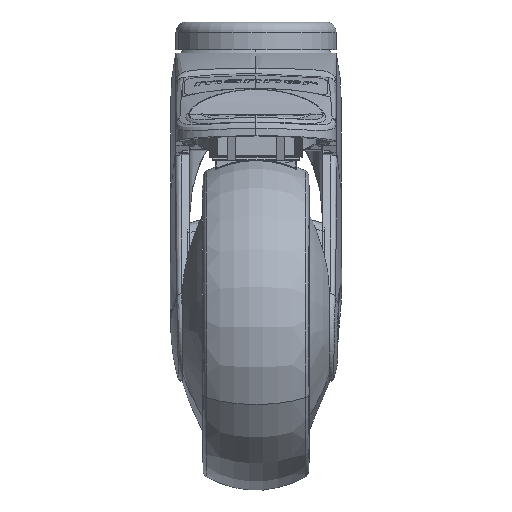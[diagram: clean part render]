
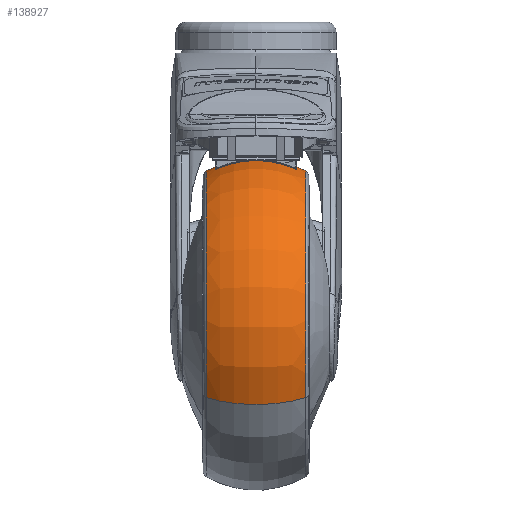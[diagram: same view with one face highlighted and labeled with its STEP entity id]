
A CAD part, left-side view. The second image highlights one B-rep face of the part: STEP entity #138927.
In plain terms, the highlighted toroidal (fillet/blend) face has major radius 22 mm and minor radius 28 mm.
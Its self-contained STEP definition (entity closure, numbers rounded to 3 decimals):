
#84991 = CARTESIAN_POINT ( 'NONE',  ( -85.096, -14.808, -3.061 ) ) ;
#84992 = CARTESIAN_POINT ( 'NONE',  ( -4.904, -14.808, 41.061 ) ) ;
#85003 = CARTESIAN_POINT ( 'NONE',  ( -4.904, 14.808, 41.061 ) ) ;
#85004 = CARTESIAN_POINT ( 'NONE',  ( -85.096, 14.808, -3.061 ) ) ;
#85006 = DIRECTION ( 'NONE',  ( -0.876, 0., -0.482 ) ) ;
#85008 = DIRECTION ( 'NONE',  ( 0., 1., 0. ) ) ;
#85010 = CARTESIAN_POINT ( 'NONE',  ( -45., 14.808, 19. ) ) ;
#85012 = AXIS2_PLACEMENT_3D ( 'NONE', #85010, #85008, #85006 ) ;
#85013 = CIRCLE ( 'NONE', #85012, 45.764 ) ;
#85101 = CARTESIAN_POINT ( 'NONE',  ( -64.275, 0., 8.395 ) ) ;
#85102 = AXIS2_PLACEMENT_3D ( 'NONE', #85101, #85229, #85228 ) ;
#85113 = CIRCLE ( 'NONE', #85102, 28. ) ;
#85228 = DIRECTION ( 'NONE',  ( -0.876, 0., -0.482 ) ) ;
#85229 = DIRECTION ( 'NONE',  ( 0.482, 0., -0.876 ) ) ;
#85249 = DIRECTION ( 'NONE',  ( 0.876, 0., 0.482 ) ) ;
#85251 = DIRECTION ( 'NONE',  ( -0.482, 0., 0.876 ) ) ;
#85252 = CARTESIAN_POINT ( 'NONE',  ( -25.725, 0., 29.605 ) ) ;
#85253 = AXIS2_PLACEMENT_3D ( 'NONE', #85252, #85251, #85249 ) ;
#85255 = CIRCLE ( 'NONE', #85253, 28. ) ;
#85260 = DIRECTION ( 'NONE',  ( -0.876, 0., -0.482 ) ) ;
#85262 = DIRECTION ( 'NONE',  ( 0., 1., 0. ) ) ;
#85263 = AXIS2_PLACEMENT_3D ( 'NONE', #85277, #85262, #85260 ) ;
#85265 = CIRCLE ( 'NONE', #85263, 45.764 ) ;
#85270 = DIRECTION ( 'NONE',  ( -0.876, 0., -0.482 ) ) ;
#85272 = DIRECTION ( 'NONE',  ( 0., 1., 0. ) ) ;
#85273 = AXIS2_PLACEMENT_3D ( 'NONE', #85280, #85272, #85270 ) ;
#85275 = TOROIDAL_SURFACE ( 'NONE', #85273, 22., 28. ) ;
#85277 = CARTESIAN_POINT ( 'NONE',  ( -45., -14.808, 19. ) ) ;
#85280 = CARTESIAN_POINT ( 'NONE',  ( -45., 0., 19. ) ) ;
#85281 = FACE_OUTER_BOUND ( 'NONE', #138931, .T. ) ;
#138786 = EDGE_CURVE ( 'NONE', #138788, #138790, #85013, .T. ) ;
#138788 = VERTEX_POINT ( 'NONE', #85004 ) ;
#138790 = VERTEX_POINT ( 'NONE', #85003 ) ;
#138796 = VERTEX_POINT ( 'NONE', #84992 ) ;
#138797 = VERTEX_POINT ( 'NONE', #84991 ) ;
#138880 = ORIENTED_EDGE ( 'NONE', *, *, #138786, .F. ) ;
#138882 = ORIENTED_EDGE ( 'NONE', *, *, #138884, .F. ) ;
#138884 = EDGE_CURVE ( 'NONE', #138797, #138788, #85113, .T. ) ;
#138927 = ADVANCED_FACE ( 'NONE', ( #85281 ), #85275, .T. ) ;
#138931 = EDGE_LOOP ( 'NONE', ( #138933, #138937, #138880, #138882 ) ) ;
#138933 = ORIENTED_EDGE ( 'NONE', *, *, #138935, .T. ) ;
#138935 = EDGE_CURVE ( 'NONE', #138797, #138796, #85265, .T. ) ;
#138937 = ORIENTED_EDGE ( 'NONE', *, *, #138938, .T. ) ;
#138938 = EDGE_CURVE ( 'NONE', #138796, #138790, #85255, .T. ) ;
